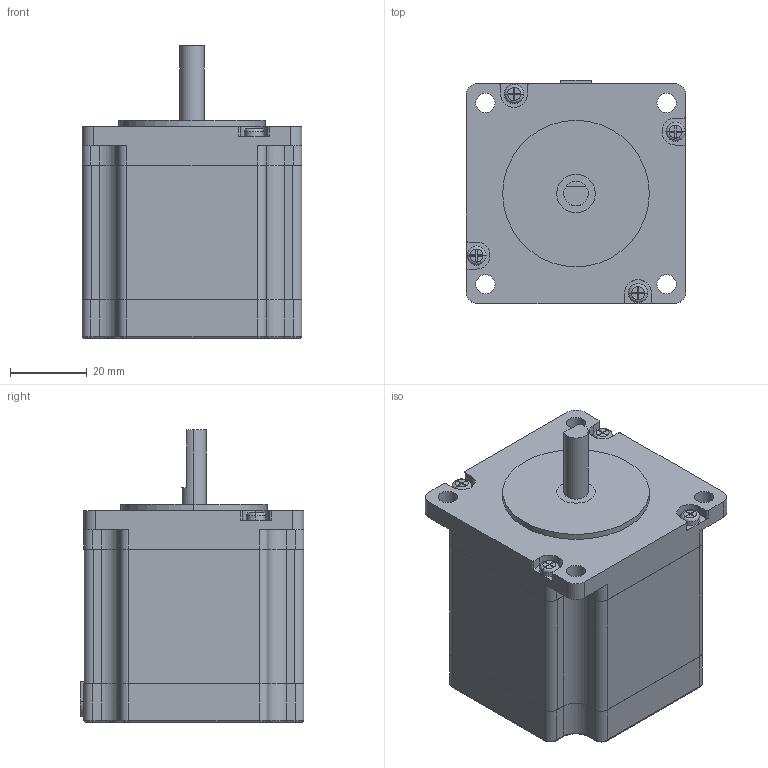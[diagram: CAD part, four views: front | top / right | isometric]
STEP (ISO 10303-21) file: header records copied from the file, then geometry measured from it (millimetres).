
FILE_DESCRIPTION (( 'STEP AP203' ), '1' );
FILE_NAME ('57CM13-3A.STEP', '2021-04-26T01:15:09', ( 'Owner' ), ( 'Organization' ), 'SwSTEP 2.0', 'SolidWorks 2018', '' );
FILE_SCHEMA (( 'CONFIG_CONTROL_DESIGN' ));
Length unit declared in the file: millimetre
Products named in the file (1): 57CM13-3A
Bounding box: 57.15 x 58.15 x 75.99 mm (x, y, z)
Volume: 163466.2 mm3; surface area: 19454.8 mm2
Topology: 1 solids, 1 shells, 259 faces, 691 edges, 452 vertices
Faces by surface type: cylinder 118, plane 111, bspline 30
Entity records: 8546 total; most frequent: CARTESIAN_POINT 1967, ORIENTED_EDGE 1382, DIRECTION 1379, EDGE_CURVE 691, AXIS2_PLACEMENT_3D 496, VERTEX_POINT 452, LINE 387, VECTOR 387
